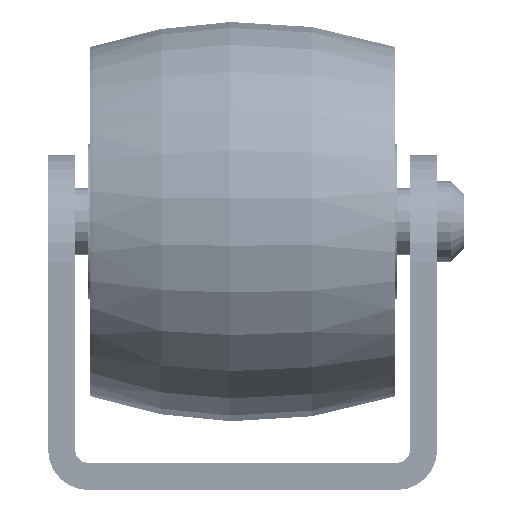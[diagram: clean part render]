
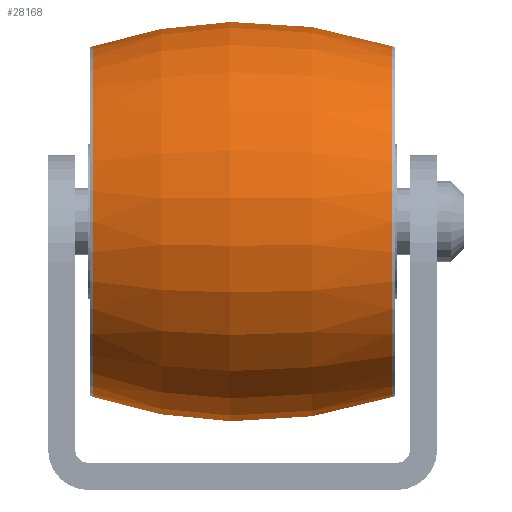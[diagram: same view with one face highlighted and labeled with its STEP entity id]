
A CAD part, front view. The second image highlights one B-rep face of the part: STEP entity #28168.
In plain terms, the highlighted toroidal (fillet/blend) face has major radius 20.11 mm and minor radius 35 mm.
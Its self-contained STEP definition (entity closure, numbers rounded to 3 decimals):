
#18=DEGENERATE_TOROIDAL_SURFACE('',#31436,20.11,35.,.F.);
#13794=ORIENTED_EDGE('',*,*,#17737,.F.);
#13795=ORIENTED_EDGE('',*,*,#17738,.F.);
#17737=EDGE_CURVE('',#20296,#20296,#21943,.T.);
#17738=EDGE_CURVE('',#20297,#20297,#21944,.T.);
#20296=VERTEX_POINT('',#48495);
#20297=VERTEX_POINT('',#48498);
#21943=CIRCLE('',#31433,13.08);
#21944=CIRCLE('',#31435,13.08);
#23921=EDGE_LOOP('',(#13794));
#23922=EDGE_LOOP('',(#13795));
#25899=FACE_BOUND('',#23921,.T.);
#25900=FACE_BOUND('',#23922,.T.);
#28168=ADVANCED_FACE('',(#25899,#25900),#18,.F.);
#31433=AXIS2_PLACEMENT_3D('',#48494,#40245,#40246);
#31435=AXIS2_PLACEMENT_3D('',#48497,#40249,#40250);
#31436=AXIS2_PLACEMENT_3D('',#48499,#40251,#40252);
#40245=DIRECTION('',(1.,0.,0.));
#40246=DIRECTION('',(0.,0.,-1.));
#40249=DIRECTION('',(-1.,0.,0.));
#40250=DIRECTION('',(0.,0.,1.));
#40251=DIRECTION('',(1.,0.,0.));
#40252=DIRECTION('',(0.,0.,-1.));
#48494=CARTESIAN_POINT('',(-0.388,0.,0.));
#48495=CARTESIAN_POINT('',(-0.388,0.,-13.08));
#48497=CARTESIAN_POINT('',(-22.612,0.,0.));
#48498=CARTESIAN_POINT('',(-22.612,0.,13.08));
#48499=CARTESIAN_POINT('',(-11.5,0.,0.));
